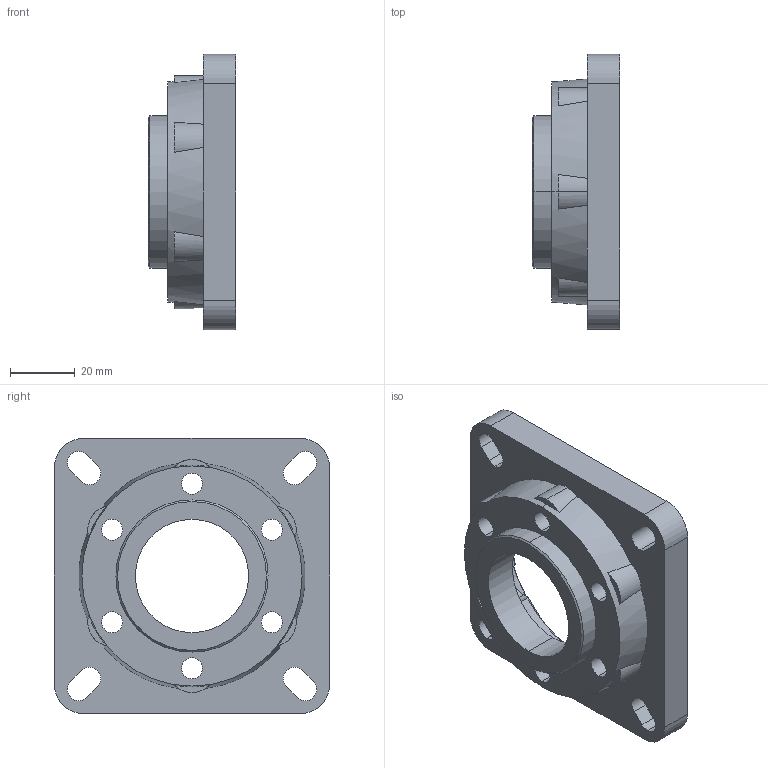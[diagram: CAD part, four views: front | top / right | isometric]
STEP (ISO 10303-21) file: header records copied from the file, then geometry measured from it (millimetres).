
FILE_DESCRIPTION (( 'STEP AP203' ), '1' );
FILE_NAME ('庋.803-5-23.0.0.1.STEP', '2021-03-06T16:48:26', ( '' ), ( '' ), 'SwSTEP 2.0', 'SolidWorks 2016', '' );
FILE_SCHEMA (( 'CONFIG_CONTROL_DESIGN' ));
Length unit declared in the file: millimetre
Products named in the file (1): 庋.803-5-23.0.0.1
Bounding box: 27 x 85 x 85 mm (x, y, z)
Volume: 55944.7 mm3; surface area: 24262.8 mm2
Topology: 1 solids, 1 shells, 92 faces, 254 edges, 168 vertices
Faces by surface type: cylinder 56, plane 24, cone 12
Entity records: 3173 total; most frequent: CARTESIAN_POINT 611, DIRECTION 554, ORIENTED_EDGE 508, EDGE_CURVE 254, AXIS2_PLACEMENT_3D 231, VERTEX_POINT 168, CIRCLE 138, EDGE_LOOP 118
